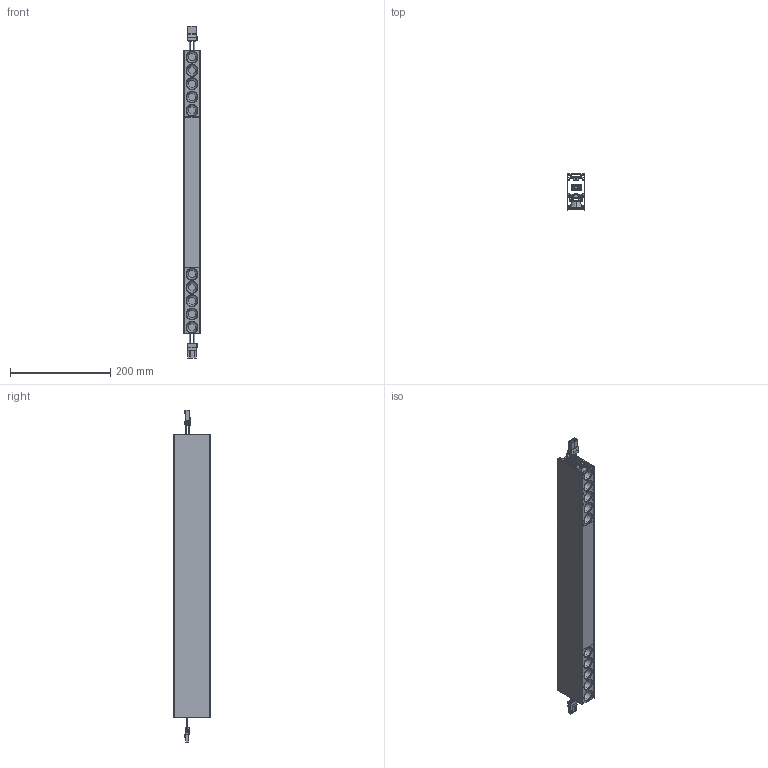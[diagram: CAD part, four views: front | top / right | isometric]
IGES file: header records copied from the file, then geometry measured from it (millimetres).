
Start section: SolidWorks IGES file using analytic representation for surfaces
Global section: file name: \\srvficheros\personales\o.domenech\3D\LIBRERIA_3D\Producto\3980_INVISIBLE\MODULARES\C3980100_modular_565mm\INVISIBLE-C39801-3D.IGS; native system: SolidWorks 2023; preprocessor: SolidWorks 2023; author: o.domenech; date: 240718.110847; units: millimetre
Bounding box: 35 x 72 x 662 mm (x, y, z)
Surface area: 389548.7 mm2 (no closed solid volume)
Topology: 0 solids, 0 shells, 797 faces, 17012 edges, 20961 vertices
Faces by surface type: bspline 474, revolution 323
